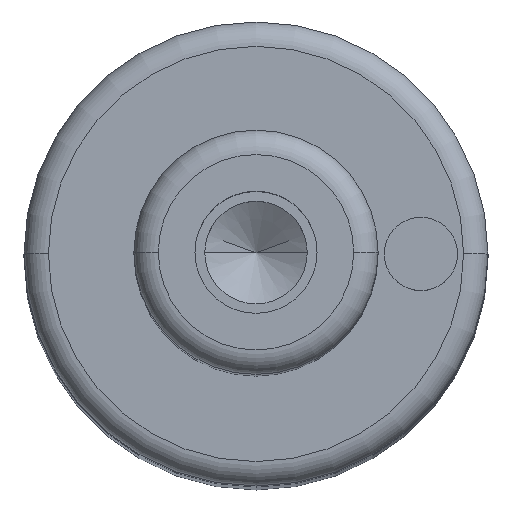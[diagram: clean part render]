
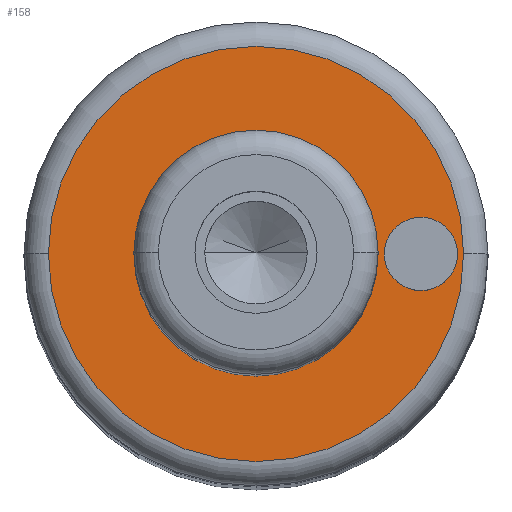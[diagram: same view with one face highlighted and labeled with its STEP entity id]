
A CAD part, top view. The second image highlights one B-rep face of the part: STEP entity #158.
In plain terms, the highlighted planar face has unit normal (0, 0, 1).
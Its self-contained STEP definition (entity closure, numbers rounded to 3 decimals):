
#105=PLANE('',#628);
#113=FACE_BOUND('',#229,.T.);
#114=FACE_BOUND('',#230,.T.);
#115=FACE_BOUND('',#231,.T.);
#158=ADVANCED_FACE('',(#113,#114,#115),#105,.T.);
#229=EDGE_LOOP('',(#375,#376));
#230=EDGE_LOOP('',(#377,#378));
#231=EDGE_LOOP('',(#379,#380));
#259=CIRCLE('',#596,5.);
#260=CIRCLE('',#598,5.);
#264=CIRCLE('',#603,8.5);
#265=CIRCLE('',#605,8.5);
#277=CIRCLE('',#626,1.5);
#278=CIRCLE('',#627,1.5);
#375=ORIENTED_EDGE('',*,*,#488,.F.);
#376=ORIENTED_EDGE('',*,*,#489,.F.);
#377=ORIENTED_EDGE('',*,*,#507,.F.);
#378=ORIENTED_EDGE('',*,*,#508,.F.);
#379=ORIENTED_EDGE('',*,*,#484,.T.);
#380=ORIENTED_EDGE('',*,*,#482,.T.);
#434=VERTEX_POINT('',#875);
#435=VERTEX_POINT('',#877);
#436=VERTEX_POINT('',#883);
#439=VERTEX_POINT('',#888);
#448=VERTEX_POINT('',#927);
#449=VERTEX_POINT('',#928);
#482=EDGE_CURVE('',#435,#434,#259,.T.);
#484=EDGE_CURVE('',#434,#435,#260,.T.);
#488=EDGE_CURVE('',#439,#436,#264,.T.);
#489=EDGE_CURVE('',#436,#439,#265,.T.);
#507=EDGE_CURVE('',#448,#449,#277,.T.);
#508=EDGE_CURVE('',#449,#448,#278,.T.);
#596=AXIS2_PLACEMENT_3D('',#876,#707,#708);
#598=AXIS2_PLACEMENT_3D('',#880,#712,#713);
#603=AXIS2_PLACEMENT_3D('',#889,#722,#723);
#605=AXIS2_PLACEMENT_3D('',#891,#726,#727);
#626=AXIS2_PLACEMENT_3D('',#926,#774,#775);
#627=AXIS2_PLACEMENT_3D('',#929,#776,#777);
#628=AXIS2_PLACEMENT_3D('',#930,#778,#779);
#707=DIRECTION('',(0.,0.,-1.));
#708=DIRECTION('',(0.,1.,0.));
#712=DIRECTION('',(0.,0.,-1.));
#713=DIRECTION('',(0.,-1.,0.));
#722=DIRECTION('',(0.,0.,-1.));
#723=DIRECTION('',(0.,1.,0.));
#726=DIRECTION('',(0.,0.,-1.));
#727=DIRECTION('',(0.,-1.,0.));
#774=DIRECTION('',(0.,0.,1.));
#775=DIRECTION('',(0.,1.,0.));
#776=DIRECTION('',(0.,0.,1.));
#777=DIRECTION('',(0.,-1.,0.));
#778=DIRECTION('',(0.,0.,1.));
#779=DIRECTION('',(0.,-1.,0.));
#875=CARTESIAN_POINT('',(-5.,0.,95.));
#876=CARTESIAN_POINT('',(0.,0.,95.));
#877=CARTESIAN_POINT('',(5.,0.,95.));
#880=CARTESIAN_POINT('',(0.,0.,95.));
#883=CARTESIAN_POINT('',(-8.5,0.,95.));
#888=CARTESIAN_POINT('',(8.5,0.,95.));
#889=CARTESIAN_POINT('',(0.,0.,95.));
#891=CARTESIAN_POINT('',(0.,0.,95.));
#926=CARTESIAN_POINT('',(6.75,0.,95.));
#927=CARTESIAN_POINT('',(5.25,0.,95.));
#928=CARTESIAN_POINT('',(8.25,0.,95.));
#929=CARTESIAN_POINT('',(6.75,0.,95.));
#930=CARTESIAN_POINT('',(0.,0.,95.));
